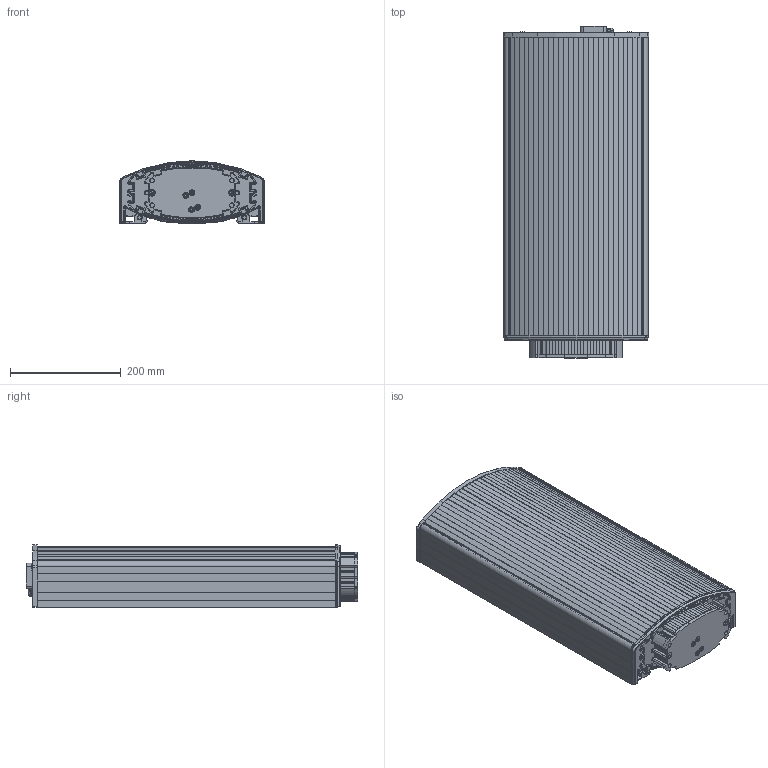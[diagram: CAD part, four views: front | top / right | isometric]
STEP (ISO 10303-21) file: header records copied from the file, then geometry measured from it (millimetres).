
FILE_DESCRIPTION (( 'STEP AP214' ), '1' );
FILE_NAME ('EZ02716.STEP', '2020-07-08T12:22:51', ( '' ), ( '' ), 'SwSTEP 2.0', 'SolidWorks 2020', '' );
FILE_SCHEMA (( 'AUTOMOTIVE_DESIGN' ));
Length unit declared in the file: millimetre
Products named in the file (19): EZ01260; Zierstopfen - 055 0168 113 03; socket button head screw_1_iso_ISO 7380 - M5 x 8 --- 8N - 10.9 verz.; EZ02025; Klemmschelle-2510.1-4; EZ02024; Gewindefurchende Senkschraube DIN 7500M Torx - M5x30 _DIN EN ISO 7046-1 - M5 x 30 - Z - 30N - St verz.; EZ01473_L„nge:493mm; EZ02716; socket countersunk head screw_1_din_DIN 7991 - M6 x 16 --- 16N - 8.8 verz.; EZ02715_EB 587  Hub700 (Gen.2 EZ01923); socket countersunk head screw_1_din_DIN 7991 - M6 x 25 --- 25N - 8.8 verz.; Sicherungsscheiben-08490104; EZ02503_EB587 Hub700; EZ01530_Version neu; EZ02714_L„nge: 540mm; EZ01261; EZ01472_L„nge:516mm; socket countersunk head screw_1_din_DIN 7991 - M8 x 35 --- 35N - 8.8 verz.
Assembly tree (32 placements, depth 3):
  EZ02716
    EZ02715_EB 587  Hub700 (Gen.2 EZ01923)
      EZ02714_L„nge: 540mm
      EZ01472_L„nge:516mm
      EZ01473_L„nge:493mm
    EZ02503_EB587 Hub700
      EZ02024
      Sicherungsscheiben-08490104
      socket button head screw_1_iso_ISO 7380 - M5 x 8 --- 8N - 10.9 verz.  x3
      socket countersunk head screw_1_din_DIN 7991 - M6 x 16 --- 16N - 8.8 verz.
    EZ02025
    EZ01530_Version neu
    EZ01260
    EZ01261
    Klemmschelle-2510.1-4
    Zierstopfen - 055 0168 113 03  x3
    socket button head screw_1_iso_ISO 7380 - M5 x 8 --- 8N - 10.9 verz.
    socket countersunk head screw_1_din_DIN 7991 - M6 x 25 --- 25N - 8.8 verz.  x2
    socket countersunk head screw_1_din_DIN 7991 - M8 x 35 --- 35N - 8.8 verz.  x6
    Gewindefurchende Senkschraube DIN 7500M Torx - M5x30 _DIN EN ISO 7046-1 - M5 x 30 - Z - 30N - St verz.  x4
Bounding box: 262.4 x 599 x 112.71 mm (x, y, z)
Volume: 5180999.1 mm3; surface area: 2889490.4 mm2
Topology: 30 solids, 30 shells, 5152 faces, 13725 edges, 8606 vertices
Faces by surface type: cylinder 2465, plane 1378, bspline 476, torus 424, cone 284, sphere 125
Entity records: 175594 total; most frequent: CARTESIAN_POINT 51257, DIRECTION 26160, ORIENTED_EDGE 25950, EDGE_CURVE 12975, AXIS2_PLACEMENT_3D 10210, VERTEX_POINT 8199, CIRCLE 5821, LINE 5740
